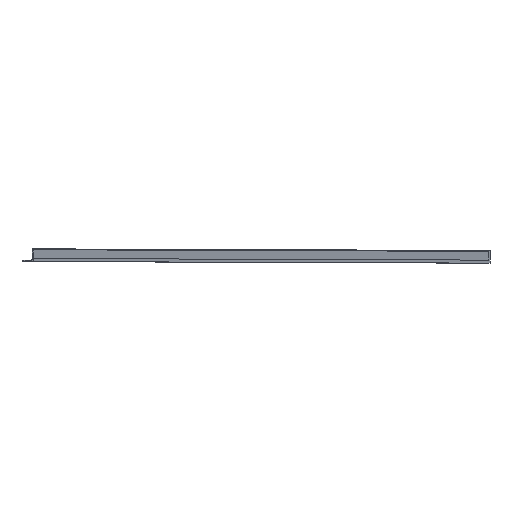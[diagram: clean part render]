
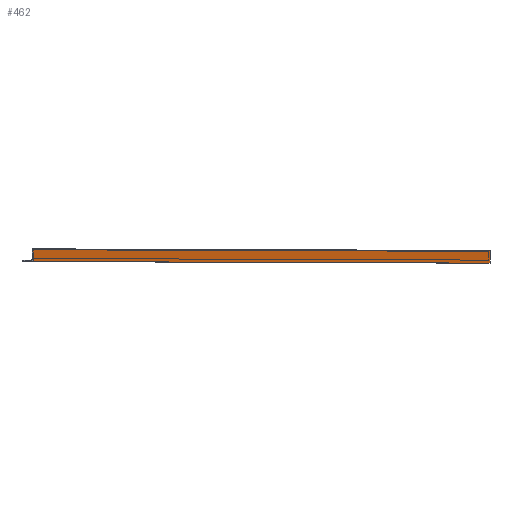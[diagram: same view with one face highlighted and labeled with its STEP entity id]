
A CAD part, top view. The second image highlights one B-rep face of the part: STEP entity #462.
In plain terms, the highlighted planar face has unit normal (0.898, 0, 0.44).
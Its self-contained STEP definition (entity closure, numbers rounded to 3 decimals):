
#30 = LINE ( 'NONE', #376, #274 ) ;
#66 = EDGE_LOOP ( 'NONE', ( #300, #719, #281, #601 ) ) ;
#70 = CARTESIAN_POINT ( 'NONE',  ( 7132.487, 3805., 3866.524 ) ) ;
#118 = FACE_OUTER_BOUND ( 'NONE', #66, .T. ) ;
#141 = VERTEX_POINT ( 'NONE', #616 ) ;
#142 = DIRECTION ( 'NONE',  ( 0., 1., 0. ) ) ;
#144 = EDGE_CURVE ( 'NONE', #647, #141, #566, .T. ) ;
#185 = LINE ( 'NONE', #193, #481 ) ;
#193 = CARTESIAN_POINT ( 'NONE',  ( 7132.487, 3855., 3866.524 ) ) ;
#200 = DIRECTION ( 'NONE',  ( 0.44, 0., -0.898 ) ) ;
#233 = AXIS2_PLACEMENT_3D ( 'NONE', #70, #450, #690 ) ;
#237 = DIRECTION ( 'NONE',  ( 0.44, 0., -0.898 ) ) ;
#240 = VECTOR ( 'NONE', #142, 1000. ) ;
#244 = EDGE_CURVE ( 'NONE', #647, #311, #733, .T. ) ;
#254 = VECTOR ( 'NONE', #200, 1000. ) ;
#271 = CARTESIAN_POINT ( 'NONE',  ( 7132.487, 3805., 3866.524 ) ) ;
#274 = VECTOR ( 'NONE', #669, 1000. ) ;
#281 = ORIENTED_EDGE ( 'NONE', *, *, #244, .F. ) ;
#300 = ORIENTED_EDGE ( 'NONE', *, *, #302, .T. ) ;
#302 = EDGE_CURVE ( 'NONE', #141, #478, #30, .T. ) ;
#311 = VERTEX_POINT ( 'NONE', #496 ) ;
#329 = CARTESIAN_POINT ( 'NONE',  ( 7132.487, 3805., 3866.524 ) ) ;
#365 = CARTESIAN_POINT ( 'NONE',  ( 8934.417, 3855., 190.588 ) ) ;
#376 = CARTESIAN_POINT ( 'NONE',  ( 8934.417, 3805., 190.588 ) ) ;
#450 = DIRECTION ( 'NONE',  ( -0.898, 0., -0.44 ) ) ;
#462 = ADVANCED_FACE ( 'NONE', ( #118 ), #581, .F. ) ;
#478 = VERTEX_POINT ( 'NONE', #365 ) ;
#481 = VECTOR ( 'NONE', #237, 1000. ) ;
#496 = CARTESIAN_POINT ( 'NONE',  ( 7132.487, 3855., 3866.524 ) ) ;
#531 = EDGE_CURVE ( 'NONE', #311, #478, #185, .T. ) ;
#566 = LINE ( 'NONE', #329, #254 ) ;
#581 = PLANE ( 'NONE',  #233 ) ;
#601 = ORIENTED_EDGE ( 'NONE', *, *, #144, .T. ) ;
#616 = CARTESIAN_POINT ( 'NONE',  ( 8934.417, 3805., 190.588 ) ) ;
#647 = VERTEX_POINT ( 'NONE', #271 ) ;
#669 = DIRECTION ( 'NONE',  ( 0., 1., 0. ) ) ;
#687 = CARTESIAN_POINT ( 'NONE',  ( 7132.487, 3805., 3866.524 ) ) ;
#690 = DIRECTION ( 'NONE',  ( -0.44, 0., 0.898 ) ) ;
#719 = ORIENTED_EDGE ( 'NONE', *, *, #531, .F. ) ;
#733 = LINE ( 'NONE', #687, #240 ) ;
